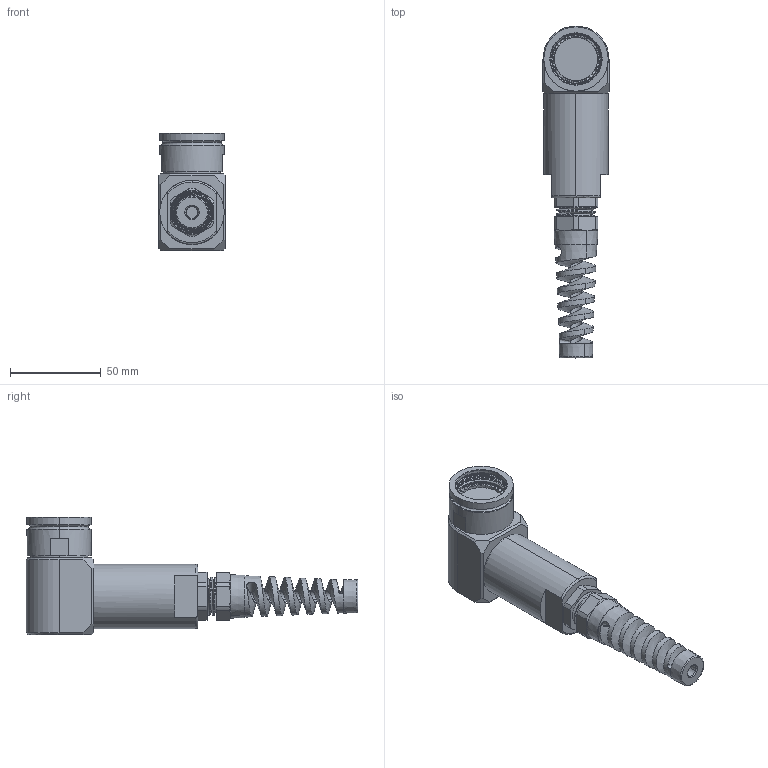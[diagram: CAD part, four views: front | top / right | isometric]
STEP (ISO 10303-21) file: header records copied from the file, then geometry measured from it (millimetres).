
FILE_DESCRIPTION (( 'STEP AP214' ), '1' );
FILE_NAME ('Q38EBSHELL-90X-19-XXXX-GB.STEP', '2025-09-22T15:13:00', ( '' ), ( '' ), 'SwSTEP 2.0', 'SolidWorks 2024', '' );
FILE_SCHEMA (( 'AUTOMOTIVE_DESIGN' ));
Length unit declared in the file: millimetre
Products named in the file (1): Q38EBSHELL-90X-19-XXXX-GB
Bounding box: 36.4 x 182.63 x 64.41 mm (x, y, z)
Volume: 141273.3 mm3; surface area: 30203.1 mm2
Topology: 2 solids, 4 shells, 340 faces, 1038 edges, 723 vertices
Faces by surface type: plane 189, cylinder 79, cone 46, torus 13, bspline 13
Entity records: 18467 total; most frequent: CARTESIAN_POINT 9794, ORIENTED_EDGE 2076, DIRECTION 1568, EDGE_CURVE 1038, VERTEX_POINT 723, AXIS2_PLACEMENT_3D 623, EDGE_LOOP 361, ADVANCED_FACE 340
